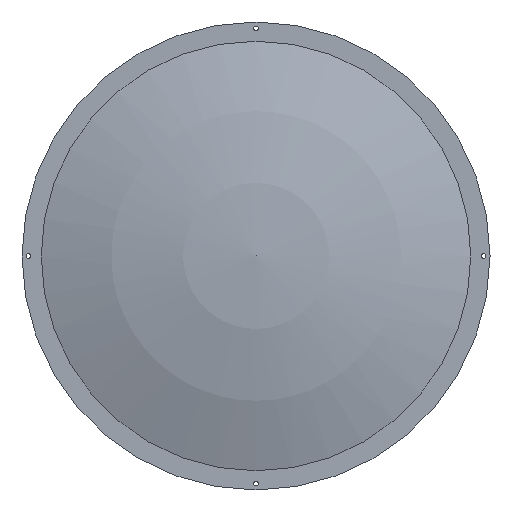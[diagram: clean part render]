
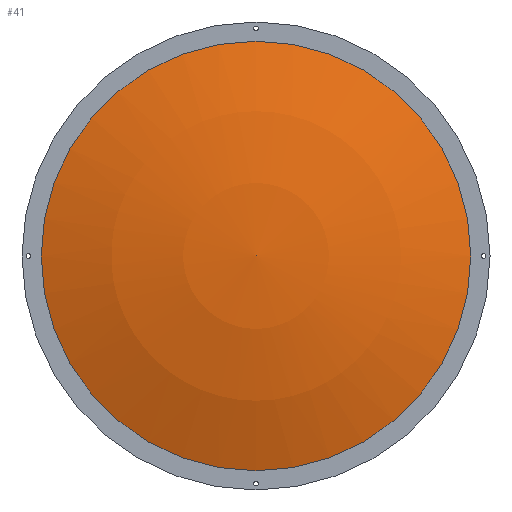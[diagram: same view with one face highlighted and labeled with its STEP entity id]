
A CAD part, top view. The second image highlights one B-rep face of the part: STEP entity #41.
In plain terms, the highlighted spherical face has radius 2533.62 mm.
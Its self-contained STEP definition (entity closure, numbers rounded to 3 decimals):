
#41 = ADVANCED_FACE( '', ( #87 ), #88, .T. );
#87 = FACE_OUTER_BOUND( '', #136, .T. );
#88 = SPHERICAL_SURFACE( '', #137, 2533.622 );
#136 = EDGE_LOOP( '', ( #187 ) );
#137 = AXIS2_PLACEMENT_3D( '', #188, #189, #190 );
#187 = ORIENTED_EDGE( '', *, *, #232, .T. );
#188 = CARTESIAN_POINT( '', ( 0., 0., -2485.706 ) );
#189 = DIRECTION( '', ( 0., 0., 1. ) );
#190 = DIRECTION( '', ( 1., 0., 0. ) );
#232 = EDGE_CURVE( '', #261, #261, #262, .F. );
#261 = VERTEX_POINT( '', #294 );
#262 = CIRCLE( '', #295, 850.176 );
#294 = CARTESIAN_POINT( '', ( -850.176, 0., -98.984 ) );
#295 = AXIS2_PLACEMENT_3D( '', #330, #331, #332 );
#330 = CARTESIAN_POINT( '', ( 0., 0., -98.984 ) );
#331 = DIRECTION( '', ( 0., 0., -1. ) );
#332 = DIRECTION( '', ( -1., 0., 0. ) );
